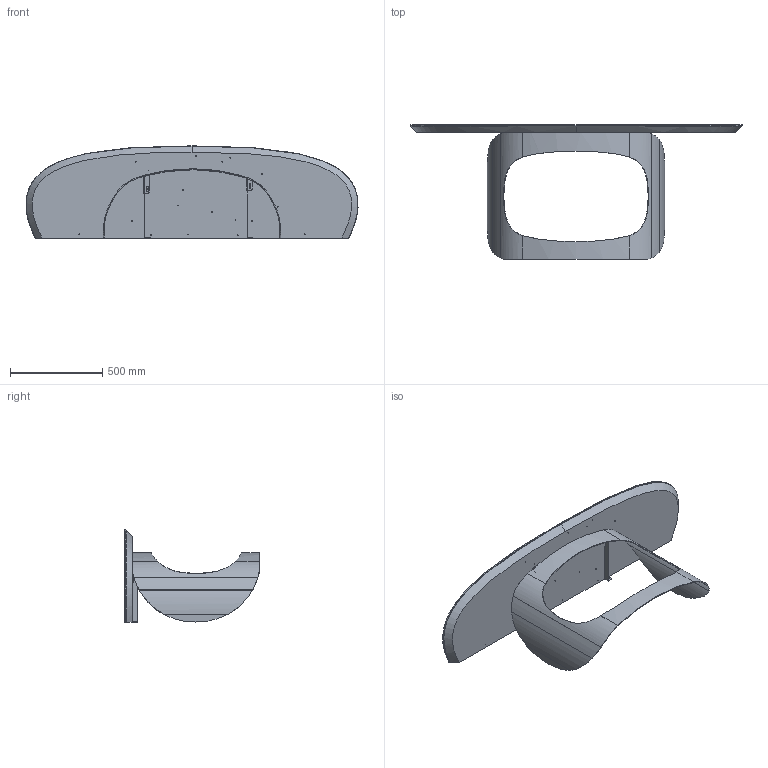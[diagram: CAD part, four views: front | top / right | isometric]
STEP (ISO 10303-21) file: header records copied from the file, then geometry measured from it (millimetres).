
FILE_DESCRIPTION (( 'STEP AP203' ), '1' );
FILE_NAME ('PO61C_Polifemo Console_180x50x73h_Ceramic Shaped.STEP', '2024-08-02T08:18:38', ( '' ), ( '' ), 'SwSTEP 2.0', 'SolidWorks 2022', '' );
FILE_SCHEMA (( 'CONFIG_CONTROL_DESIGN' ));
Length unit declared in the file: millimetre
Products named in the file (9): CONSOLLE POLIFEMO_STAFFA SX ANCORAGGIO; TRU000XXX-01-Sottopiano per ceramica_180x50; POLCSTA01-00-POLIFEMO CONSOLLE STAFFE METALLO VERN.NERO DI FONDO; POLC00000-00-POLIFEMO CONSOLLE CORPO CENTRALE METALLO GREZZO; PO61C_Polifemo Console_180x50x73h_Ceramic Shaped; KXXXX-00-piani CERAMICA Sasso per console_180X50; CONSOLLE POLIFEMO_STAFFA DX ANCORAGGIO; Kxx-00-Piano in ceramica_180x50; CONSOLLE POLIFEMO_BASE 02
Assembly tree (9 placements, depth 3):
  PO61C_Polifemo Console_180x50x73h_Ceramic Shaped
    POLC00000-00-POLIFEMO CONSOLLE CORPO CENTRALE METALLO GREZZO
      CONSOLLE POLIFEMO_BASE 02
      CONSOLLE POLIFEMO_STAFFA DX ANCORAGGIO
      CONSOLLE POLIFEMO_STAFFA SX ANCORAGGIO
    POLCSTA01-00-POLIFEMO CONSOLLE STAFFE METALLO VERN.NERO DI FONDO  x2
    KXXXX-00-piani CERAMICA Sasso per console_180X50
      Kxx-00-Piano in ceramica_180x50
      TRU000XXX-01-Sottopiano per ceramica_180x50
Bounding box: 1799.11 x 731 x 500.03 mm (x, y, z)
Volume: 33840162.1 mm3; surface area: 4465751.8 mm2
Topology: 7 solids, 7 shells, 289 faces, 736 edges, 457 vertices
Faces by surface type: cylinder 115, plane 84, bspline 50, cone 40
Entity records: 12045 total; most frequent: CARTESIAN_POINT 5265, ORIENTED_EDGE 1216, DIRECTION 1143, EDGE_CURVE 608, AXIS2_PLACEMENT_3D 413, VERTEX_POINT 377, LINE 317, VECTOR 317
